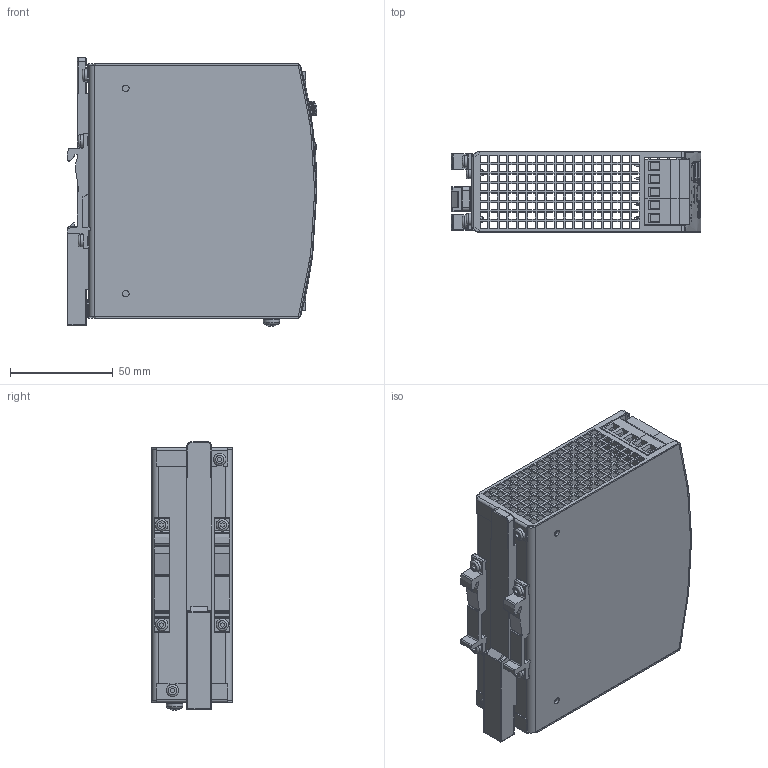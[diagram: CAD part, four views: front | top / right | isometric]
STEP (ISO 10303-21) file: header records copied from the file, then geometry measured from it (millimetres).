
FILE_DESCRIPTION(/* description */ ('HOUSING BODY','CAx-IF Rec.Pracs.---Representation and Presentation of Product Manufacturing Information (PMI)---3.8---2014-02-18'),/* implementation_level */ '2;1');
FILE_NAME(/* name */ 'L:\MKT-GER\Daten von KO\CP10.121 (410.02)\md3_cp10_121.stp',/* time_stamp */ '2016-03-29T08:21:52+02:00',/* author */ ('rahns'),/* organization */ (''),/* preprocessor_version */ 'ST-DEVELOPER v16.1',/* originating_system */ 'Autodesk Inventor 2016',/* authorisation */ '');
FILE_SCHEMA (('AP242_MANAGED_MODEL_BASED_3D_ENGINEERING_MIM_LF { 1 0 10303 442 1 1 4 }'));
Products named in the file (14): HOUSING BODY 410.00; HOUSING COVER 410.02; FRONTFOIL 410.02; SLIDER; SCREW 3x6; T HOLDER; SCREW 4x8; WASHER 4; TERMINAL 3P R6,35 T; TERMINAL 2P R6,35 T; XT-LP2SW-R6; LED GN; POTENTIOMETER COVER; 410.02
Assembly tree (21 placements, depth 2):
  410.02
    HOUSING BODY 410.00
    HOUSING COVER 410.02
    FRONTFOIL 410.02
    SLIDER
    SCREW 3x6  x6
    T HOLDER  x2
    SCREW 4x8
    WASHER 4
    TERMINAL 3P R6,35 T  x2
    TERMINAL 2P R6,35 T
    XT-LP2SW-R6  x2
    LED GN
    POTENTIOMETER COVER
Bounding box: 121.72 x 39 x 130.77 mm (x, y, z)
Volume: 80571.9 mm3; surface area: 107645.6 mm2
Topology: 21 solids, 21 shells, 2859 faces, 7967 edges, 5286 vertices
Faces by surface type: plane 2206, bspline 328, cylinder 259, cone 28, torus 25, sphere 13
Full cylindrical faces by diameter (mm): 0.05 x2, 0.3 x8, 2.45 x2, 2.7 x1, 3 x6, 3.1 x4, 3.2 x3, 3.5 x1, 3.621 x1, 4 x1, 4.355 x1, 4.5 x1, 4.6 x1, 5.15 x8, 6 x6
Entity records: 89439 total; most frequent: CARTESIAN_POINT 24084, ORIENTED_EDGE 14136, DIRECTION 11618, EDGE_CURVE 7068, LINE 5566, VECTOR 5566, VERTEX_POINT 4713, EDGE_LOOP 3265
